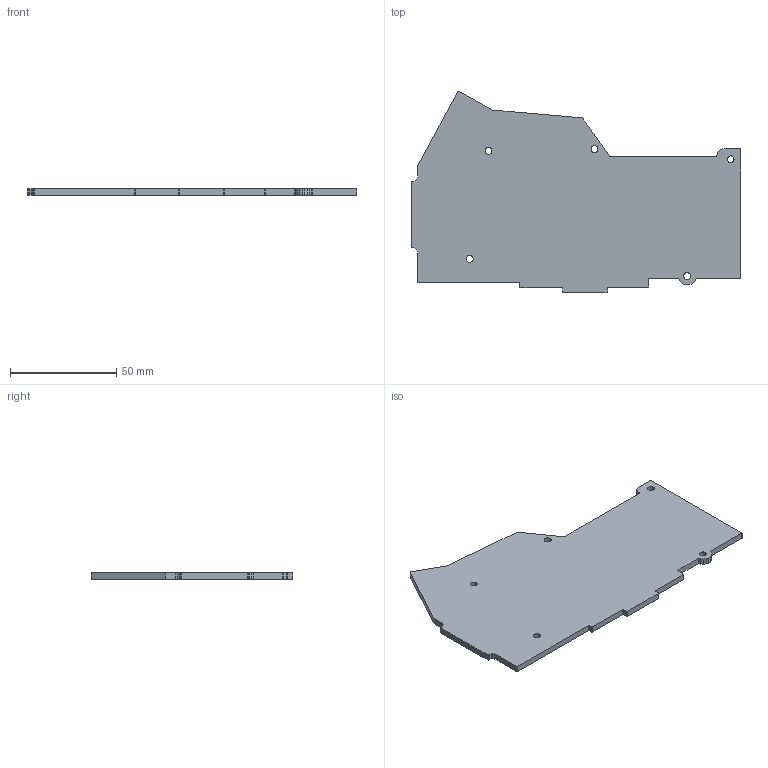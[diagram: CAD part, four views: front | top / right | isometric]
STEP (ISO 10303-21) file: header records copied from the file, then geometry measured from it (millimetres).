
FILE_DESCRIPTION(('Keyboard Case Plate - right_bottom_plate'),'2;1');
FILE_NAME('right_bottom_plate.stp','2025-01-01T00:00:00',(''),(''),'','','');
FILE_SCHEMA(('AUTOMOTIVE_DESIGN { 1 0 10303 214 1 1 1 1 }'));
Length unit declared in the file: millimetre
Products named in the file (1): right_bottom_plate
Bounding box: 154.75 x 94.95 x 3 mm (x, y, z)
Surface area: 23284.4 mm2 (no closed solid volume)
Topology: 0 solids, 189 shells, 189 faces, 1112 edges, 1112 vertices
Faces by surface type: plane 179, cylinder 10
Entity records: 10476 total; most frequent: CARTESIAN_POINT 2414, DIRECTION 1522, VERTEX_POINT 1112, EDGE_CURVE 1112, ORIENTED_EDGE 1112, VECTOR 1082, LINE 1082, AXIS2_PLACEMENT_3D 220
